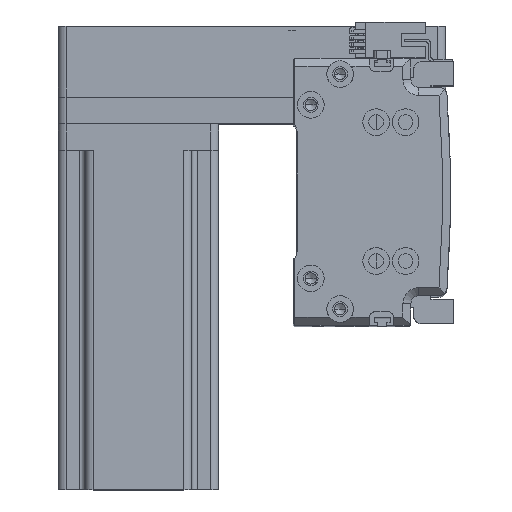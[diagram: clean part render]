
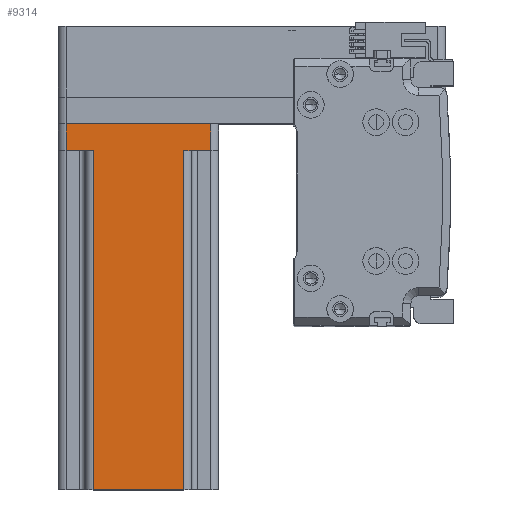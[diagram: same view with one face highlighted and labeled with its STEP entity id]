
A CAD part, top view. The second image highlights one B-rep face of the part: STEP entity #9314.
In plain terms, the highlighted planar face has unit normal (0, 0, 1) as drawn and (0, -1, 0) by its records, which use the part's own axes.
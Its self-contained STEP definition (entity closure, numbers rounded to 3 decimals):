
#149 = LINE ( 'NONE', #40724, #35989 ) ;
#481 = CARTESIAN_POINT ( 'NONE',  ( 27., -30., 0. ) ) ;
#1516 = VECTOR ( 'NONE', #41976, 1000. ) ;
#1730 = VECTOR ( 'NONE', #8662, 1000. ) ;
#1752 = EDGE_CURVE ( 'NONE', #2146, #30194, #149, .T. ) ;
#1965 = VERTEX_POINT ( 'NONE', #16785 ) ;
#2146 = VERTEX_POINT ( 'NONE', #481 ) ;
#2610 = LINE ( 'NONE', #21189, #1516 ) ;
#2694 = EDGE_CURVE ( 'NONE', #12662, #2146, #45152, .T. ) ;
#3930 = VERTEX_POINT ( 'NONE', #27630 ) ;
#4286 = LINE ( 'NONE', #10588, #30920 ) ;
#7639 = VECTOR ( 'NONE', #17681, 1000. ) ;
#8660 = LINE ( 'NONE', #36462, #44584 ) ;
#8662 = DIRECTION ( 'NONE',  ( 0., 0., -1. ) ) ;
#9314 = ADVANCED_FACE ( 'NONE', ( #22886 ), #27554, .F. ) ;
#10588 = CARTESIAN_POINT ( 'NONE',  ( 30., -30., 137. ) ) ;
#12430 = EDGE_CURVE ( 'NONE', #42645, #21155, #44642, .T. ) ;
#12662 = VERTEX_POINT ( 'NONE', #32793 ) ;
#15285 = CARTESIAN_POINT ( 'NONE',  ( 30., -30., 0. ) ) ;
#15317 = ORIENTED_EDGE ( 'NONE', *, *, #35637, .T. ) ;
#16785 = CARTESIAN_POINT ( 'NONE',  ( 17., -30., 10. ) ) ;
#16882 = ORIENTED_EDGE ( 'NONE', *, *, #19014, .T. ) ;
#17391 = VECTOR ( 'NONE', #32583, 1000. ) ;
#17681 = DIRECTION ( 'NONE',  ( 1., 0., 0. ) ) ;
#18255 = ORIENTED_EDGE ( 'NONE', *, *, #12430, .F. ) ;
#19014 = EDGE_CURVE ( 'NONE', #30194, #1965, #2610, .T. ) ;
#19184 = DIRECTION ( 'NONE',  ( 0., 0., -1. ) ) ;
#19322 = DIRECTION ( 'NONE',  ( 0., 0., 1. ) ) ;
#19939 = CARTESIAN_POINT ( 'NONE',  ( -17., -30., 10. ) ) ;
#20205 = ORIENTED_EDGE ( 'NONE', *, *, #1752, .T. ) ;
#20685 = CARTESIAN_POINT ( 'NONE',  ( 30., -30., 137. ) ) ;
#21155 = VERTEX_POINT ( 'NONE', #19939 ) ;
#21189 = CARTESIAN_POINT ( 'NONE',  ( 20., -30., 10. ) ) ;
#21502 = CARTESIAN_POINT ( 'NONE',  ( 17., -30., 137. ) ) ;
#21828 = EDGE_CURVE ( 'NONE', #3930, #35429, #4286, .T. ) ;
#22886 = FACE_OUTER_BOUND ( 'NONE', #44312, .T. ) ;
#23043 = VECTOR ( 'NONE', #19322, 1000. ) ;
#23140 = ORIENTED_EDGE ( 'NONE', *, *, #21828, .F. ) ;
#24194 = DIRECTION ( 'NONE',  ( -1., 0., 0. ) ) ;
#24411 = ORIENTED_EDGE ( 'NONE', *, *, #29650, .T. ) ;
#24467 = AXIS2_PLACEMENT_3D ( 'NONE', #20685, #45015, #24194 ) ;
#25071 = EDGE_CURVE ( 'NONE', #1965, #35429, #33331, .T. ) ;
#26970 = DIRECTION ( 'NONE',  ( 0., 0., 1. ) ) ;
#27554 = PLANE ( 'NONE',  #24467 ) ;
#27630 = CARTESIAN_POINT ( 'NONE',  ( -17., -30., 137. ) ) ;
#29650 = EDGE_CURVE ( 'NONE', #42645, #12662, #39801, .T. ) ;
#30194 = VERTEX_POINT ( 'NONE', #36082 ) ;
#30920 = VECTOR ( 'NONE', #34844, 1000. ) ;
#31802 = ORIENTED_EDGE ( 'NONE', *, *, #2694, .T. ) ;
#32223 = CARTESIAN_POINT ( 'NONE',  ( -27., -30., 10. ) ) ;
#32583 = DIRECTION ( 'NONE',  ( 1., 0., 0. ) ) ;
#32793 = CARTESIAN_POINT ( 'NONE',  ( -27., -30., 0. ) ) ;
#32955 = CARTESIAN_POINT ( 'NONE',  ( -27., -30., 137. ) ) ;
#33331 = LINE ( 'NONE', #36577, #23043 ) ;
#33560 = ORIENTED_EDGE ( 'NONE', *, *, #25071, .T. ) ;
#34844 = DIRECTION ( 'NONE',  ( 1., 0., 0. ) ) ;
#35429 = VERTEX_POINT ( 'NONE', #21502 ) ;
#35637 = EDGE_CURVE ( 'NONE', #3930, #21155, #8660, .T. ) ;
#35989 = VECTOR ( 'NONE', #26970, 1000. ) ;
#36082 = CARTESIAN_POINT ( 'NONE',  ( 27., -30., 10. ) ) ;
#36462 = CARTESIAN_POINT ( 'NONE',  ( -17., -30., 137. ) ) ;
#36577 = CARTESIAN_POINT ( 'NONE',  ( 17., -30., 137. ) ) ;
#39801 = LINE ( 'NONE', #32955, #1730 ) ;
#40724 = CARTESIAN_POINT ( 'NONE',  ( 27., -30., 137. ) ) ;
#41976 = DIRECTION ( 'NONE',  ( -1., 0., 0. ) ) ;
#41977 = CARTESIAN_POINT ( 'NONE',  ( -20., -30., 10. ) ) ;
#42645 = VERTEX_POINT ( 'NONE', #32223 ) ;
#44312 = EDGE_LOOP ( 'NONE', ( #23140, #15317, #18255, #24411, #31802, #20205, #16882, #33560 ) ) ;
#44584 = VECTOR ( 'NONE', #19184, 1000. ) ;
#44642 = LINE ( 'NONE', #41977, #7639 ) ;
#45015 = DIRECTION ( 'NONE',  ( 0., 1., 0. ) ) ;
#45152 = LINE ( 'NONE', #15285, #17391 ) ;
